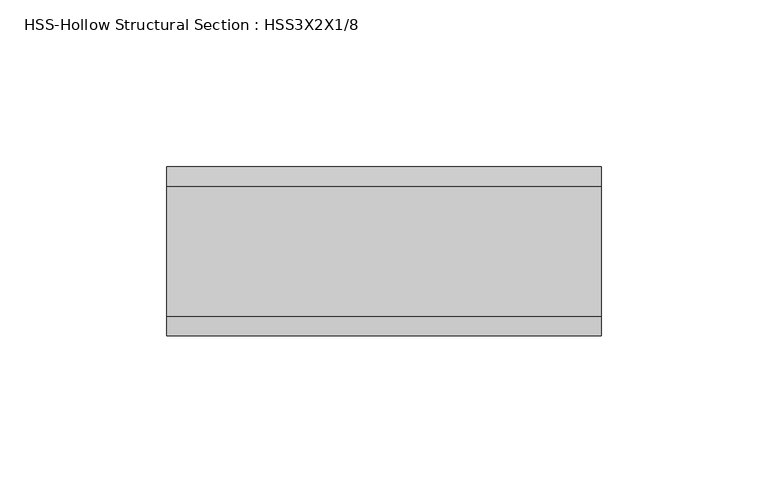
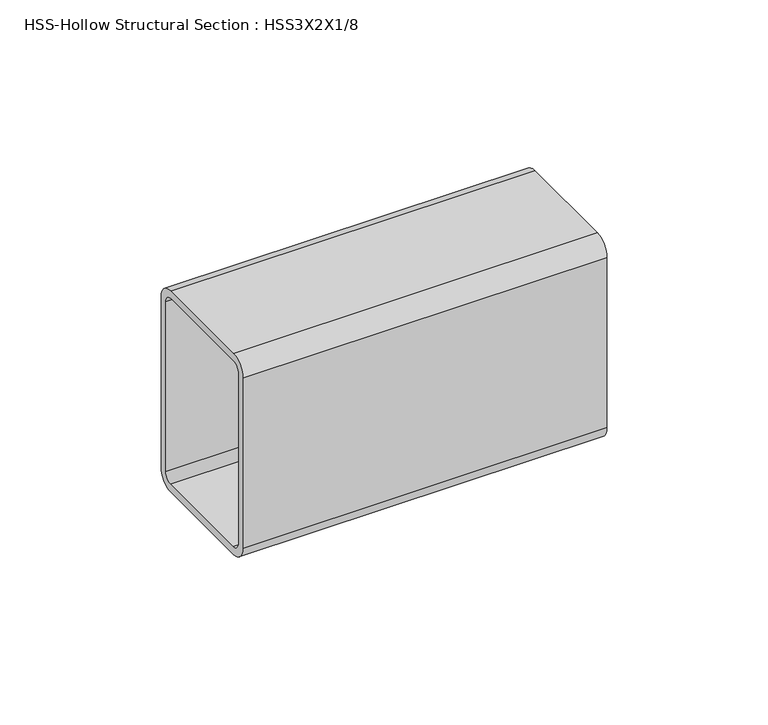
"""IFC4 building model written with IfcOpenShell, lengths in millimetres: beam geometry, HSS-Hollow Structural Section : HSS3X2X1/8."""

from ifc_helpers import new_model, si_unit, point, frame, frame_2d, origin, place, context, project, spatial, polyline, circle_curve, trimmed, segment, composite_curve, outline, extrude, source, transform, mapped, element, save


def hss_hollow_structural_section_hss3x2x1_8_eb60367d(model_context):
    return source(origin(), model_context, "Body", "SweptSolid", [
        extrude(outline(composite_curve([segment(polyline([(25.4, 32.2072), (25.4, -32.2072)]), True, "CONTINUOUS"), segment(trimmed(circle_curve(frame_2d((19.5072, -32.2072)), 5.8928), [point((25.4, -32.2072))], [point((19.5072, -38.1))], False, "CARTESIAN"), True, "CONTINUOUS"), segment(polyline([(19.5072, -38.1), (-19.5072, -38.1)]), True, "CONTINUOUS"), segment(trimmed(circle_curve(frame_2d((-19.5072, -32.2072)), 5.8928), [point((-19.5072, -38.1))], [point((-25.4, -32.2072))], False, "CARTESIAN"), True, "CONTINUOUS"), segment(polyline([(-25.4, -32.2072), (-25.4, 32.2072)]), True, "CONTINUOUS"), segment(trimmed(circle_curve(frame_2d((-19.5072, 32.2072)), 5.8928), [point((-25.4, 32.2072))], [point((-19.5072, 38.1))], False, "CARTESIAN"), True, "CONTINUOUS"), segment(polyline([(-19.5072, 38.1), (19.5072, 38.1)]), True, "CONTINUOUS"), segment(trimmed(circle_curve(frame_2d((19.5072, 32.2072)), 5.8928), [point((19.5072, 38.1))], [point((25.4, 32.2072))], False, "CARTESIAN"), True, "CONTINUOUS")], self_intersect=False), holes=[composite_curve([segment(trimmed(circle_curve(frame_2d((-19.5072, 32.2072)), 2.9464), [point((-19.5072, 35.1536))], [point((-22.4536, 32.2072))], True, "CARTESIAN"), True, "CONTINUOUS"), segment(polyline([(-22.4536, 32.2072), (-22.4536, -32.2072)]), True, "CONTINUOUS"), segment(trimmed(circle_curve(frame_2d((-19.5072, -32.2072)), 2.9464), [point((-22.4536, -32.2072))], [point((-19.5072, -35.1536))], True, "CARTESIAN"), True, "CONTINUOUS"), segment(polyline([(-19.5072, -35.1536), (19.5072, -35.1536)]), True, "CONTINUOUS"), segment(trimmed(circle_curve(frame_2d((19.5072, -32.2072)), 2.9464), [point((19.5072, -35.1536))], [point((22.4536, -32.2072))], True, "CARTESIAN"), True, "CONTINUOUS"), segment(polyline([(22.4536, -32.2072), (22.4536, 32.2072)]), True, "CONTINUOUS"), segment(trimmed(circle_curve(frame_2d((19.5072, 32.2072)), 2.9464), [point((22.4536, 32.2072))], [point((19.5072, 35.1536))], True, "CARTESIAN"), True, "CONTINUOUS"), segment(polyline([(19.5072, 35.1536), (-19.5072, 35.1536)]), True, "CONTINUOUS")], self_intersect=False)]), frame((-16.129, 0.0, 0.0), z_axis=(1.0, 0.0, 0.0), x_axis=(0.0, 1.0, 0.0)), (0.0, 0.0, 1.0), 130.429),
    ])


if __name__ == "__main__":
    model = new_model("IFC4")
    model_context = context("Model", 3, world=origin())
    ifc_project = project(units=[si_unit("LENGTHUNIT", "METRE", prefix="MILLI")], contexts=[model_context])
    site = spatial("IfcSite", under=ifc_project)
    building = spatial("IfcBuilding", under=site)
    placement = place(None, origin())
    hss_hollow_structural_section_hss3x2x1_8_shape = hss_hollow_structural_section_hss3x2x1_8_eb60367d(model_context)
    element("IfcBeam", 1, ObjectType="HSS-Hollow Structural Section : HSS3X2X1/8", at=placement, inside=building, context=model_context, shape_type="MappedRepresentation", body=[
        mapped(hss_hollow_structural_section_hss3x2x1_8_shape, transform((0.0, 0.0, 0.0), x_axis=(1.0, 0.0, 0.0), y_axis=(0.0, 1.0, 0.0), z_axis=(0.0, 0.0, 1.0))),
    ])
    save(model, "model.ifc")
